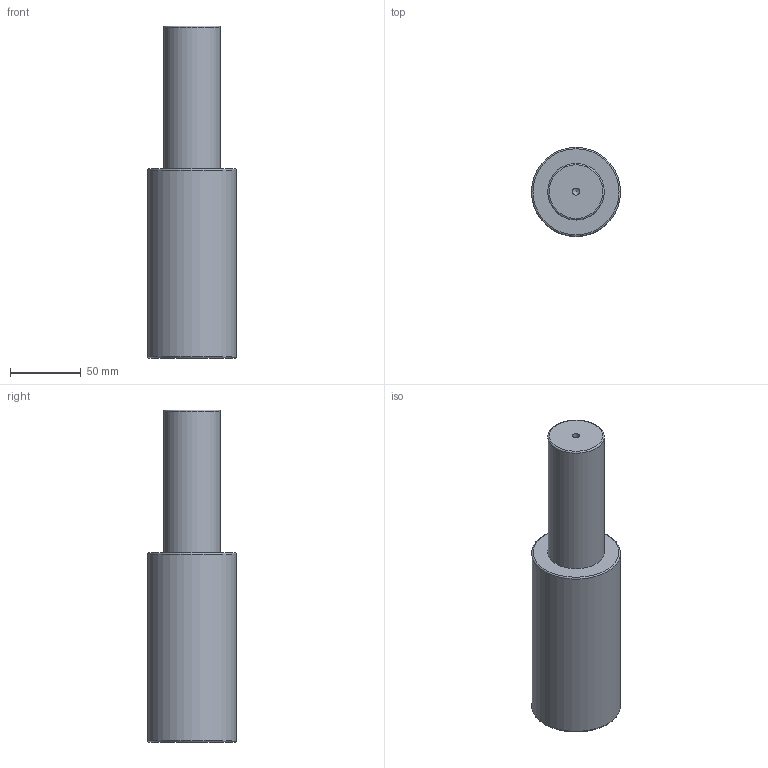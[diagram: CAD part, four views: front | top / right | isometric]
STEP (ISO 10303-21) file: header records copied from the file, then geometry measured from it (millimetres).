
FILE_DESCRIPTION(/* description */ (''),/* implementation_level */ '2;1');
FILE_NAME(/* name */ 'NV5-SMLX.63x100.stp',/* time_stamp */ '2018-08-31T16:08:32+02:00',/* author */ (''),/* organization */ (''),/* preprocessor_version */ 'ST-DEVELOPER v16',/* originating_system */ 'SIEMENS PLM Software NX 10.0',/* authorisation */ '');
FILE_SCHEMA (('AUTOMOTIVE_DESIGN { 1 0 10303 214 3 1 1 1 }'));
Length unit declared in the file: millimetre
Products named in the file (1): NV5-SMLX.63x100
Bounding box: 63 x 63 x 235 mm (x, y, z)
Volume: 543111.2 mm3; surface area: 45942.3 mm2
Topology: 1 solids, 1 shells, 12 faces, 24 edges, 15 vertices
Faces by surface type: cylinder 4, torus 3, plane 3, cone 2
Full cylindrical faces by diameter (mm): 5 x1, 8.5 x1, 40 x1, 63 x1
Entity records: 266 total; most frequent: DIRECTION 48, CARTESIAN_POINT 37, FACE_BOUND 24, AXIS2_PLACEMENT_3D 24, EDGE_LOOP 22, ORIENTED_EDGE 22, VERTEX_POINT 13, ADVANCED_FACE 12
